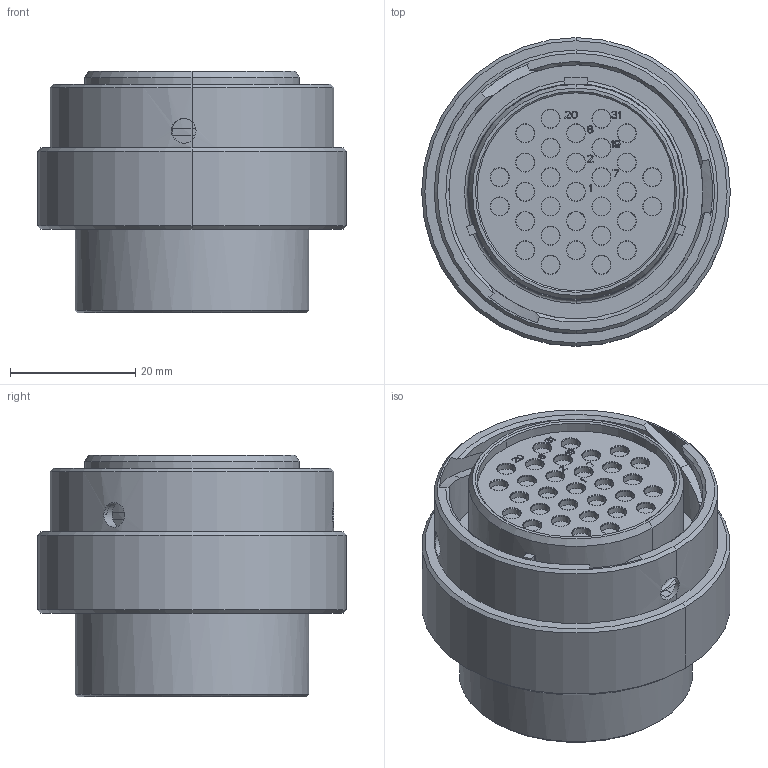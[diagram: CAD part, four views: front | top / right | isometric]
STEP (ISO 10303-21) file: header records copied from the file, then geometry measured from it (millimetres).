
FILE_DESCRIPTION((''),'2;1');
FILE_NAME('C-HD36-24-31ST','2013-05-15T',('workeradm'),('Tyco Electronics Ltd.'),'PRO/ENGINEER BY PARAMETRIC TECHNOLOGY CORPORATION, 2011490','PRO/ENGINEER BY PARAMETRIC TECHNOLOGY CORPORATION, 2011490','');
FILE_SCHEMA(('AUTOMOTIVE_DESIGN { 1 0 10303 214 1 1 1 1 }'));
Length unit declared in the file: millimetre
Products named in the file (1): C-HD36-24-31ST
Bounding box: 49.33 x 49.33 x 38.61 mm (x, y, z)
Volume: 48895 mm3; surface area: 13891 mm2
Topology: 1 solids, 1 shells, 990 faces, 2347 edges, 1472 vertices
Faces by surface type: plane 449, cylinder 296, torus 126, cone 79, bspline 34, extrusion 6
Entity records: 30754 total; most frequent: CARTESIAN_POINT 7196, DIRECTION 4975, ORIENTED_EDGE 4694, EDGE_CURVE 2347, AXIS2_PLACEMENT_3D 1794, VERTEX_POINT 1472, VECTOR 1387, LINE 1381
